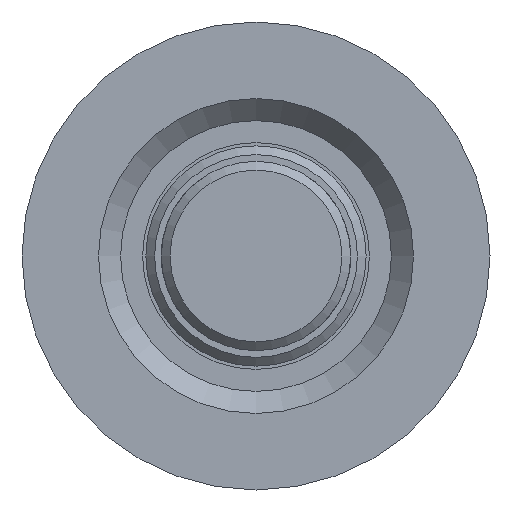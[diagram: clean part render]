
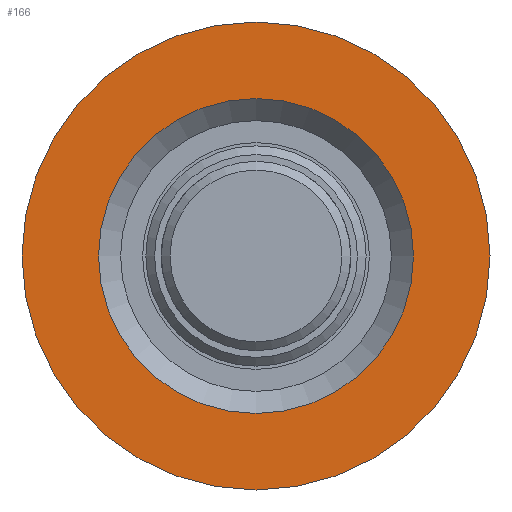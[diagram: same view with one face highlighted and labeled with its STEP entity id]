
A CAD part, left-side view. The second image highlights one B-rep face of the part: STEP entity #166.
In plain terms, the highlighted planar face has unit normal (-1, 0, 0).
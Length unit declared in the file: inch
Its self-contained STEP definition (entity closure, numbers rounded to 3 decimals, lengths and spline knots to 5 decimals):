
#124=CARTESIAN_POINT('',(-2.71185,0.3575,0.0));
#125=VERTEX_POINT('',#124);
#126=CARTESIAN_POINT('',(-2.71185,0.,0.0));
#127=DIRECTION('',(1.0,0.0,0.0));
#128=DIRECTION('',(0.0,1.0,0.0));
#129=AXIS2_PLACEMENT_3D('',#126,#127,#128);
#130=CIRCLE('',#129,0.3575);
#131=EDGE_CURVE('',#125,#125,#130,.T.);
#147=CARTESIAN_POINT('',(-2.71185,0.44437,0.0));
#148=DIRECTION('',(-1.0,0.0,0.0));
#149=DIRECTION('',(0.0,0.0,1.0));
#150=AXIS2_PLACEMENT_3D('',#147,#148,#149);
#151=PLANE('',#150);
#152=CARTESIAN_POINT('',(-2.71185,0.53125,0.0));
#153=VERTEX_POINT('',#152);
#154=CARTESIAN_POINT('',(-2.71185,0.,0.0));
#155=DIRECTION('',(1.0,0.0,0.0));
#156=DIRECTION('',(0.0,1.0,0.0));
#157=AXIS2_PLACEMENT_3D('',#154,#155,#156);
#158=CIRCLE('',#157,0.53125);
#159=EDGE_CURVE('',#153,#153,#158,.T.);
#160=ORIENTED_EDGE('',*,*,#159,.F.);
#161=EDGE_LOOP('',(#160));
#162=FACE_OUTER_BOUND('',#161,.T.);
#163=ORIENTED_EDGE('',*,*,#131,.T.);
#164=EDGE_LOOP('',(#163));
#165=FACE_BOUND('',#164,.T.);
#166=ADVANCED_FACE('',(#162,#165),#151,.T.);
